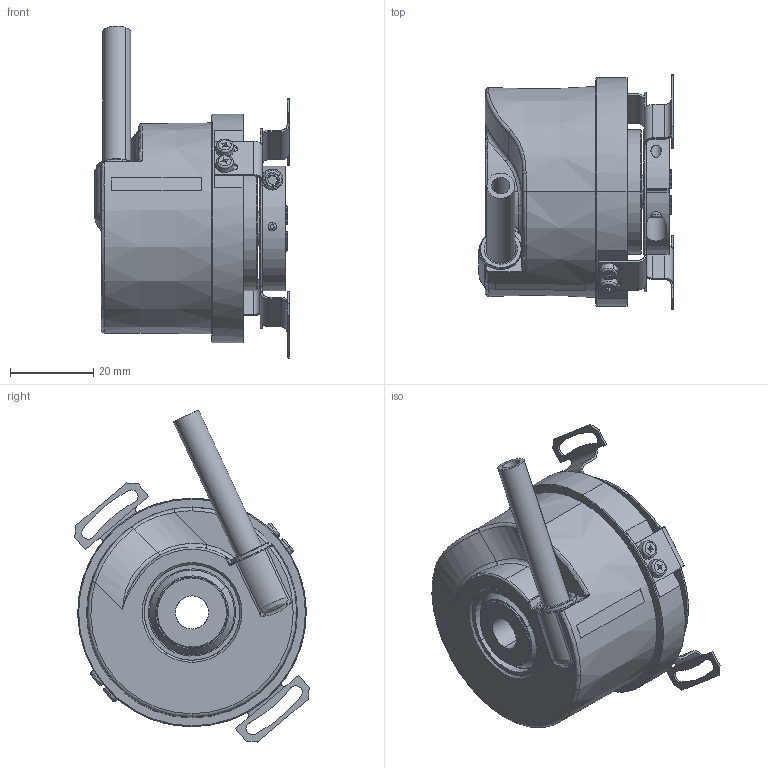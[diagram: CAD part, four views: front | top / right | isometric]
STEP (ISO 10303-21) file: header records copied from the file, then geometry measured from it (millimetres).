
FILE_DESCRIPTION (( 'STEP AP214' ), '1' );
FILE_NAME ('5020.D9XE.XXXX.STEP', '2011-01-11T07:54:12', ( 'admin' ), ( 'Fritz Kübler GmbH' ), 'SwSTEP 2.0', 'SolidWorks 2009', '' );
FILE_SCHEMA (( 'AUTOMOTIVE_DESIGN' ));
Length unit declared in the file: millimetre
Products named in the file (1): 5020.D9XE.XXXX
Bounding box: 46.8 x 56.46 x 79.93 mm (x, y, z)
Surface area: 20704.2 mm2 (no closed solid volume)
Topology: 0 solids, 17 shells, 323 faces, 889 edges, 574 vertices
Faces by surface type: plane 136, cylinder 108, torus 30, cone 29, bspline 20
Entity records: 16437 total; most frequent: CARTESIAN_POINT 4697, DIRECTION 1763, ORIENTED_EDGE 1557, EDGE_CURVE 882, AXIS2_PLACEMENT_3D 654, VERTEX_POINT 574, VECTOR 455, LINE 455
